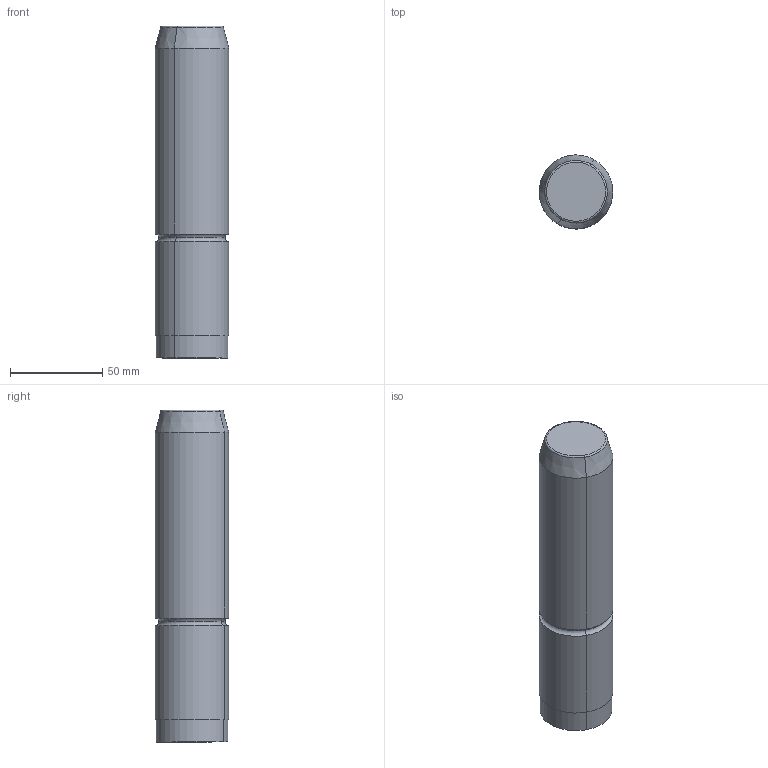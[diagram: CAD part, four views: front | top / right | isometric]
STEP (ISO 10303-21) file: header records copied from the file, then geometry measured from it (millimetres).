
FILE_DESCRIPTION(('CATIA V5 STEP Exchange'),'2;1');
FILE_NAME('C:\Users\Utente\Desktop\IO LAVORO\3D X SITO CF\X SITO\M104\M104-40x180.stp','2020-12-26T21:28:55+00:00',('none'),('none'),'CATIA Version 5 Release 20 GA (IN-10)','CATIA V5 STEP AP203','none');
FILE_SCHEMA(('CONFIG_CONTROL_DESIGN'));
Length unit declared in the file: millimetre
Products named in the file (1): M104-40x180
Bounding box: 39.99 x 39.99 x 180 mm (x, y, z)
Volume: 222312.2 mm3; surface area: 24872.9 mm2
Topology: 1 solids, 1 shells, 17 faces, 32 edges, 18 vertices
Faces by surface type: cylinder 6, torus 6, plane 3, cone 2
Entity records: 438 total; most frequent: CARTESIAN_POINT 66, ORIENTED_EDGE 64, DIRECTION 62, AXIS2_PLACEMENT_3D 40, EDGE_CURVE 32, CIRCLE 24, EDGE_LOOP 18, VERTEX_POINT 18
